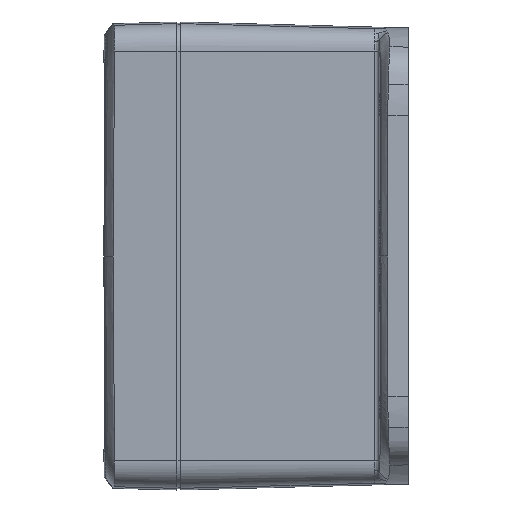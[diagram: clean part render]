
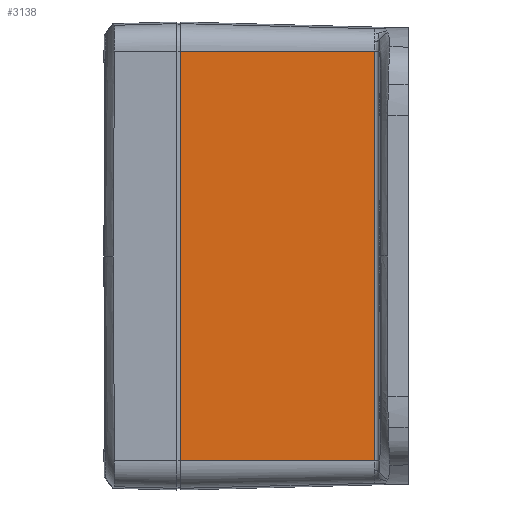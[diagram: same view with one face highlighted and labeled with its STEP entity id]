
A CAD part, left-side view. The second image highlights one B-rep face of the part: STEP entity #3138.
In plain terms, the highlighted planar face has unit normal (-1, -0.026, 0).
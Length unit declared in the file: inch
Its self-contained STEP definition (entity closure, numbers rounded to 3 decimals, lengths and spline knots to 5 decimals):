
#3138 = ADVANCED_FACE ( 'Face2', ( #113542 ), #17964, .T. ) ;
#4717 = DIRECTION ( 'NONE',  ( 0.026, -1., 0. ) ) ;
#8856 = VERTEX_POINT ( 'NONE', #86485 ) ;
#17964 = PLANE ( 'NONE',  #114354 ) ;
#22849 = DIRECTION ( 'NONE',  ( 0., 0., 1. ) ) ;
#23285 = DIRECTION ( 'NONE',  ( 0.026, -1., 0. ) ) ;
#24482 = ORIENTED_EDGE ( 'NONE', *, *, #43332, .T. ) ;
#27218 = CARTESIAN_POINT ( 'NONE',  ( -2.875, 2.06625, -1.85995 ) ) ;
#32440 = ORIENTED_EDGE ( 'NONE', *, *, #43433, .T. ) ;
#32921 = VERTEX_POINT ( 'NONE', #88021 ) ;
#34036 = LINE ( 'NONE', #76256, #112097 ) ;
#43332 = EDGE_CURVE ( 'NONE', #32921, #75656, #58190, .T. ) ;
#43433 = EDGE_CURVE ( 'NONE', #75656, #100479, #34036, .T. ) ;
#43834 = CARTESIAN_POINT ( 'NONE',  ( -2.875, 2.06625, -1.85995 ) ) ;
#54288 = DIRECTION ( 'NONE',  ( 0.026, -1., 0. ) ) ;
#58190 = LINE ( 'NONE', #27218, #98542 ) ;
#75656 = VERTEX_POINT ( 'NONE', #134885 ) ;
#76256 = CARTESIAN_POINT ( 'NONE',  ( -2.82883, 0.30328, -1.85995 ) ) ;
#77285 = EDGE_CURVE ( 'NONE', #32921, #8856, #96583, .T. ) ;
#84453 = CARTESIAN_POINT ( 'NONE',  ( -2.82883, 0.30327, 1.85995 ) ) ;
#86485 = CARTESIAN_POINT ( 'NONE',  ( -2.875, 2.06625, 1.85995 ) ) ;
#86689 = DIRECTION ( 'NONE',  ( 0., 0., 1. ) ) ;
#88021 = CARTESIAN_POINT ( 'NONE',  ( -2.875, 2.06625, -1.85995 ) ) ;
#90816 = ORIENTED_EDGE ( 'NONE', *, *, #77285, .F. ) ;
#96583 = LINE ( 'NONE', #43834, #118959 ) ;
#98542 = VECTOR ( 'NONE', #4717, 39.37008 ) ;
#100479 = VERTEX_POINT ( 'NONE', #84453 ) ;
#100601 = EDGE_CURVE ( 'NONE', #8856, #100479, #129391, .T. ) ;
#103680 = CARTESIAN_POINT ( 'NONE',  ( -2.875, 2.06625, -1.85995 ) ) ;
#104359 = DIRECTION ( 'NONE',  ( -1., -0.026, 0. ) ) ;
#111100 = CARTESIAN_POINT ( 'NONE',  ( -2.875, 2.06625, 1.85995 ) ) ;
#112097 = VECTOR ( 'NONE', #22849, 39.37008 ) ;
#113542 = FACE_OUTER_BOUND ( 'NONE', #129495, .T. ) ;
#113647 = VECTOR ( 'NONE', #23285, 39.37008 ) ;
#114354 = AXIS2_PLACEMENT_3D ( 'NONE', #103680, #104359, #54288 ) ;
#118959 = VECTOR ( 'NONE', #86689, 39.37008 ) ;
#123350 = ORIENTED_EDGE ( 'NONE', *, *, #100601, .F. ) ;
#129391 = LINE ( 'NONE', #111100, #113647 ) ;
#129495 = EDGE_LOOP ( 'NONE', ( #24482, #32440, #123350, #90816 ) ) ;
#134885 = CARTESIAN_POINT ( 'NONE',  ( -2.82883, 0.30327, -1.85995 ) ) ;
